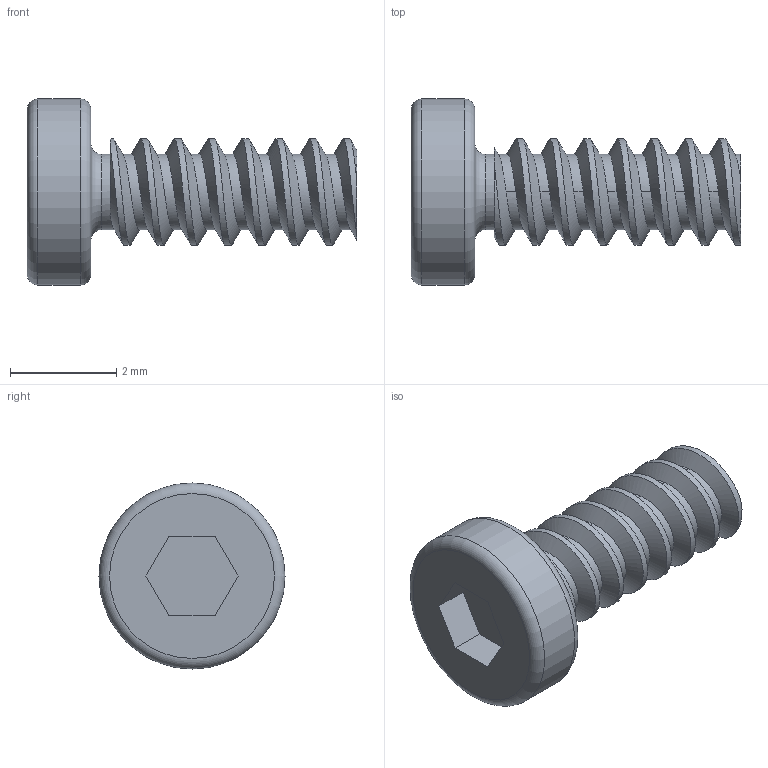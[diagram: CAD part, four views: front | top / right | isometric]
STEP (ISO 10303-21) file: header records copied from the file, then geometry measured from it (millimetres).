
FILE_DESCRIPTION(/* description */ (''),/* implementation_level */ '2;1');
FILE_NAME(/* name */ 'Y.JG.WJ.B00427 T2X5-B，平头内六角H1.5，1018A，加硬，锌镍合金黑色.stp',/* time_stamp */ '2024-04-23T19:07:09+08:00',/* author */ (''),/* organization */ (''),/* preprocessor_version */ 'ST-DEVELOPER v16.7',/* originating_system */ 'SIEMENS PLM Software NX 12.0',/* authorisation */ '');
FILE_SCHEMA (('AP203_CONFIGURATION_CONTROLLED_3D_DESIGN_OF_MECHANICAL_PARTS_AND_ASSEMBLIES_MIM_LF { 1 0 10303 403 2 1 2}'));
Length unit declared in the file: millimetre
Products named in the file (1): Y.JG.WJ.B00427 T2X5-B，平头内六角H1.5，1
018A，加硬，锌镍合金黑色
Bounding box: 6.2 x 3.5 x 3.5 mm (x, y, z)
Volume: 21.2 mm3; surface area: 74.4 mm2
Topology: 1 solids, 1 shells, 26 faces, 63 edges, 41 vertices
Faces by surface type: plane 11, cylinder 10, torus 3, bspline 2
Full cylindrical faces by diameter (mm): 1.42 x7, 3.5 x1
Entity records: 3935 total; most frequent: CARTESIAN_POINT 3481, ORIENTED_EDGE 72, DIRECTION 62, EDGE_CURVE 36, AXIS2_PLACEMENT_3D 28, EDGE_LOOP 26, VERTEX_POINT 26, B_SPLINE_CURVE_WITH_KNOTS 20
